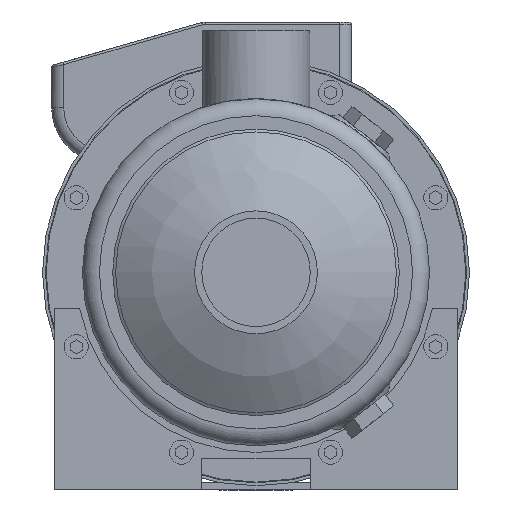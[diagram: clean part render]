
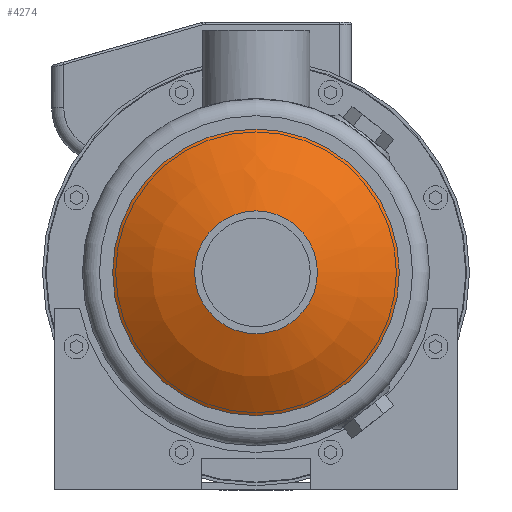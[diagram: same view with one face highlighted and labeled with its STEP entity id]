
A CAD part, left-side view. The second image highlights one B-rep face of the part: STEP entity #4274.
In plain terms, the highlighted spherical face has radius 100 mm.
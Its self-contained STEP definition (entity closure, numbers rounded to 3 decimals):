
#57=SPHERICAL_SURFACE('',#5675,100.);
#969=ORIENTED_EDGE('',*,*,#2136,.T.);
#970=ORIENTED_EDGE('',*,*,#2135,.F.);
#2135=EDGE_CURVE('',#2723,#2723,#3123,.T.);
#2136=EDGE_CURVE('',#2724,#2724,#3124,.T.);
#2723=VERTEX_POINT('',#7626);
#2724=VERTEX_POINT('',#7629);
#3123=CIRCLE('',#5674,25.4);
#3124=CIRCLE('',#5676,59.25);
#3330=EDGE_LOOP('',(#969));
#3331=EDGE_LOOP('',(#970));
#3725=FACE_BOUND('',#3330,.T.);
#3726=FACE_BOUND('',#3331,.T.);
#4274=ADVANCED_FACE('',(#3725,#3726),#57,.T.);
#5674=AXIS2_PLACEMENT_3D('',#7625,#6207,#6208);
#5675=AXIS2_PLACEMENT_3D('',#7627,#6209,#6210);
#5676=AXIS2_PLACEMENT_3D('',#7628,#6211,#6212);
#6207=DIRECTION('',(-1.,0.,0.));
#6208=DIRECTION('',(0.,0.,1.));
#6209=DIRECTION('',(-1.,0.,0.));
#6210=DIRECTION('',(0.,0.,1.));
#6211=DIRECTION('',(-1.,0.,0.));
#6212=DIRECTION('',(0.,0.,1.));
#7625=CARTESIAN_POINT('',(-52.02,0.,0.));
#7626=CARTESIAN_POINT('',(-52.02,0.,25.4));
#7627=CARTESIAN_POINT('',(44.7,0.,0.));
#7628=CARTESIAN_POINT('',(-35.857,0.,0.));
#7629=CARTESIAN_POINT('',(-35.857,0.,59.25));
